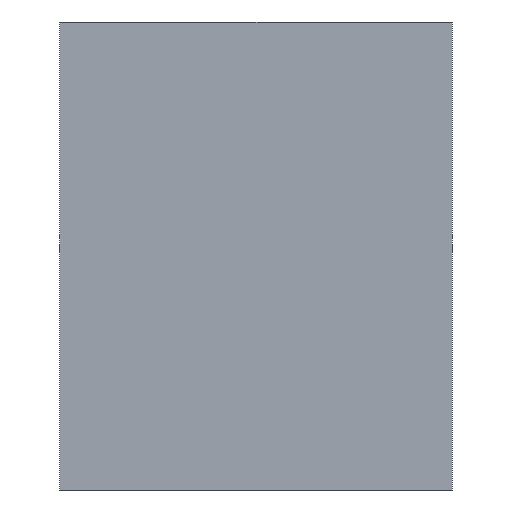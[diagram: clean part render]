
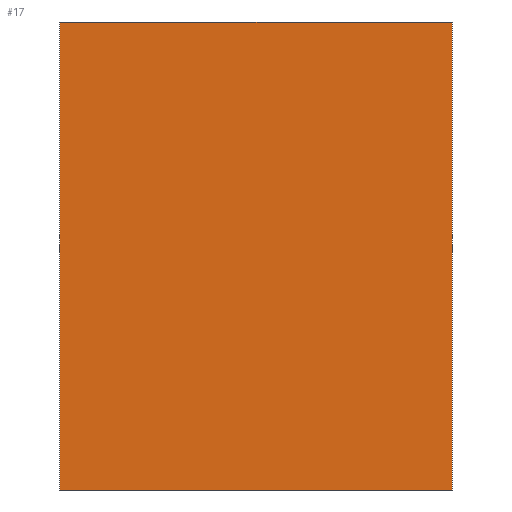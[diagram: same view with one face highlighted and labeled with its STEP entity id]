
A CAD part, left-side view. The second image highlights one B-rep face of the part: STEP entity #17.
In plain terms, the highlighted planar face has unit normal (-1, 0, 0).
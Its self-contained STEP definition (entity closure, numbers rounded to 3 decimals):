
#17 = ADVANCED_FACE('',(#18),#32,.F.);
#18 = FACE_BOUND('',#19,.F.);
#19 = EDGE_LOOP('',(#20,#55,#83,#111));
#20 = ORIENTED_EDGE('',*,*,#21,.F.);
#21 = EDGE_CURVE('',#22,#24,#26,.T.);
#22 = VERTEX_POINT('',#23);
#23 = CARTESIAN_POINT('',(24.15,1.45,9.65));
#24 = VERTEX_POINT('',#25);
#25 = CARTESIAN_POINT('',(24.15,1.45,25.75));
#26 = SURFACE_CURVE('',#27,(#31,#43),.PCURVE_S1.);
#27 = LINE('',#28,#29);
#28 = CARTESIAN_POINT('',(24.15,1.45,9.65));
#29 = VECTOR('',#30,1.);
#30 = DIRECTION('',(0.,0.,1.));
#31 = PCURVE('',#32,#37);
#32 = PLANE('',#33);
#33 = AXIS2_PLACEMENT_3D('',#34,#35,#36);
#34 = CARTESIAN_POINT('',(24.15,1.45,9.65));
#35 = DIRECTION('',(1.,0.,-0.));
#36 = DIRECTION('',(0.,0.,1.));
#37 = DEFINITIONAL_REPRESENTATION('',(#38),#42);
#38 = LINE('',#39,#40);
#39 = CARTESIAN_POINT('',(0.,0.));
#40 = VECTOR('',#41,1.);
#41 = DIRECTION('',(1.,0.));
#42 = ( GEOMETRIC_REPRESENTATION_CONTEXT(2) 
PARAMETRIC_REPRESENTATION_CONTEXT() REPRESENTATION_CONTEXT('2D SPACE',''
  ) );
#43 = PCURVE('',#44,#49);
#44 = PLANE('',#45);
#45 = AXIS2_PLACEMENT_3D('',#46,#47,#48);
#46 = CARTESIAN_POINT('',(24.15,1.45,9.65));
#47 = DIRECTION('',(-0.,1.,0.));
#48 = DIRECTION('',(0.,0.,1.));
#49 = DEFINITIONAL_REPRESENTATION('',(#50),#54);
#50 = LINE('',#51,#52);
#51 = CARTESIAN_POINT('',(0.,0.));
#52 = VECTOR('',#53,1.);
#53 = DIRECTION('',(1.,0.));
#54 = ( GEOMETRIC_REPRESENTATION_CONTEXT(2) 
PARAMETRIC_REPRESENTATION_CONTEXT() REPRESENTATION_CONTEXT('2D SPACE',''
  ) );
#55 = ORIENTED_EDGE('',*,*,#56,.T.);
#56 = EDGE_CURVE('',#22,#57,#59,.T.);
#57 = VERTEX_POINT('',#58);
#58 = CARTESIAN_POINT('',(24.15,14.95,9.65));
#59 = SURFACE_CURVE('',#60,(#64,#71),.PCURVE_S1.);
#60 = LINE('',#61,#62);
#61 = CARTESIAN_POINT('',(24.15,1.45,9.65));
#62 = VECTOR('',#63,1.);
#63 = DIRECTION('',(-0.,1.,0.));
#64 = PCURVE('',#32,#65);
#65 = DEFINITIONAL_REPRESENTATION('',(#66),#70);
#66 = LINE('',#67,#68);
#67 = CARTESIAN_POINT('',(0.,0.));
#68 = VECTOR('',#69,1.);
#69 = DIRECTION('',(0.,-1.));
#70 = ( GEOMETRIC_REPRESENTATION_CONTEXT(2) 
PARAMETRIC_REPRESENTATION_CONTEXT() REPRESENTATION_CONTEXT('2D SPACE',''
  ) );
#71 = PCURVE('',#72,#77);
#72 = PLANE('',#73);
#73 = AXIS2_PLACEMENT_3D('',#74,#75,#76);
#74 = CARTESIAN_POINT('',(24.15,1.45,9.65));
#75 = DIRECTION('',(0.,0.,1.));
#76 = DIRECTION('',(1.,0.,-0.));
#77 = DEFINITIONAL_REPRESENTATION('',(#78),#82);
#78 = LINE('',#79,#80);
#79 = CARTESIAN_POINT('',(0.,0.));
#80 = VECTOR('',#81,1.);
#81 = DIRECTION('',(0.,1.));
#82 = ( GEOMETRIC_REPRESENTATION_CONTEXT(2) 
PARAMETRIC_REPRESENTATION_CONTEXT() REPRESENTATION_CONTEXT('2D SPACE',''
  ) );
#83 = ORIENTED_EDGE('',*,*,#84,.T.);
#84 = EDGE_CURVE('',#57,#85,#87,.T.);
#85 = VERTEX_POINT('',#86);
#86 = CARTESIAN_POINT('',(24.15,14.95,25.75));
#87 = SURFACE_CURVE('',#88,(#92,#99),.PCURVE_S1.);
#88 = LINE('',#89,#90);
#89 = CARTESIAN_POINT('',(24.15,14.95,9.65));
#90 = VECTOR('',#91,1.);
#91 = DIRECTION('',(0.,0.,1.));
#92 = PCURVE('',#32,#93);
#93 = DEFINITIONAL_REPRESENTATION('',(#94),#98);
#94 = LINE('',#95,#96);
#95 = CARTESIAN_POINT('',(0.,-13.5));
#96 = VECTOR('',#97,1.);
#97 = DIRECTION('',(1.,0.));
#98 = ( GEOMETRIC_REPRESENTATION_CONTEXT(2) 
PARAMETRIC_REPRESENTATION_CONTEXT() REPRESENTATION_CONTEXT('2D SPACE',''
  ) );
#99 = PCURVE('',#100,#105);
#100 = PLANE('',#101);
#101 = AXIS2_PLACEMENT_3D('',#102,#103,#104);
#102 = CARTESIAN_POINT('',(24.15,14.95,9.65));
#103 = DIRECTION('',(-0.,1.,0.));
#104 = DIRECTION('',(0.,0.,1.));
#105 = DEFINITIONAL_REPRESENTATION('',(#106),#110);
#106 = LINE('',#107,#108);
#107 = CARTESIAN_POINT('',(0.,0.));
#108 = VECTOR('',#109,1.);
#109 = DIRECTION('',(1.,0.));
#110 = ( GEOMETRIC_REPRESENTATION_CONTEXT(2) 
PARAMETRIC_REPRESENTATION_CONTEXT() REPRESENTATION_CONTEXT('2D SPACE',''
  ) );
#111 = ORIENTED_EDGE('',*,*,#112,.F.);
#112 = EDGE_CURVE('',#24,#85,#113,.T.);
#113 = SURFACE_CURVE('',#114,(#118,#125),.PCURVE_S1.);
#114 = LINE('',#115,#116);
#115 = CARTESIAN_POINT('',(24.15,1.45,25.75));
#116 = VECTOR('',#117,1.);
#117 = DIRECTION('',(-0.,1.,0.));
#118 = PCURVE('',#32,#119);
#119 = DEFINITIONAL_REPRESENTATION('',(#120),#124);
#120 = LINE('',#121,#122);
#121 = CARTESIAN_POINT('',(16.1,0.));
#122 = VECTOR('',#123,1.);
#123 = DIRECTION('',(0.,-1.));
#124 = ( GEOMETRIC_REPRESENTATION_CONTEXT(2) 
PARAMETRIC_REPRESENTATION_CONTEXT() REPRESENTATION_CONTEXT('2D SPACE',''
  ) );
#125 = PCURVE('',#126,#131);
#126 = PLANE('',#127);
#127 = AXIS2_PLACEMENT_3D('',#128,#129,#130);
#128 = CARTESIAN_POINT('',(24.15,1.45,25.75));
#129 = DIRECTION('',(0.,0.,1.));
#130 = DIRECTION('',(1.,0.,-0.));
#131 = DEFINITIONAL_REPRESENTATION('',(#132),#136);
#132 = LINE('',#133,#134);
#133 = CARTESIAN_POINT('',(0.,0.));
#134 = VECTOR('',#135,1.);
#135 = DIRECTION('',(0.,1.));
#136 = ( GEOMETRIC_REPRESENTATION_CONTEXT(2) 
PARAMETRIC_REPRESENTATION_CONTEXT() REPRESENTATION_CONTEXT('2D SPACE',''
  ) );
